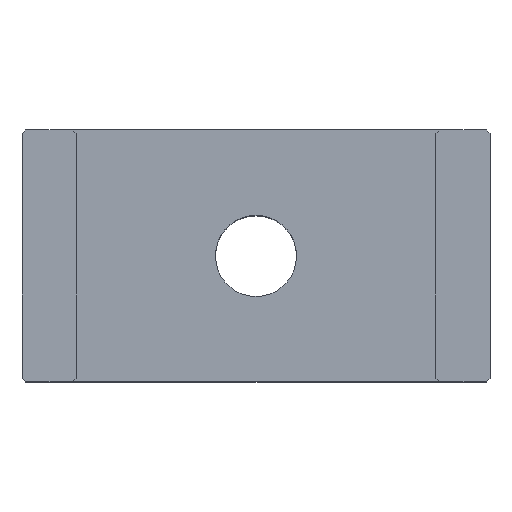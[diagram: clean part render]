
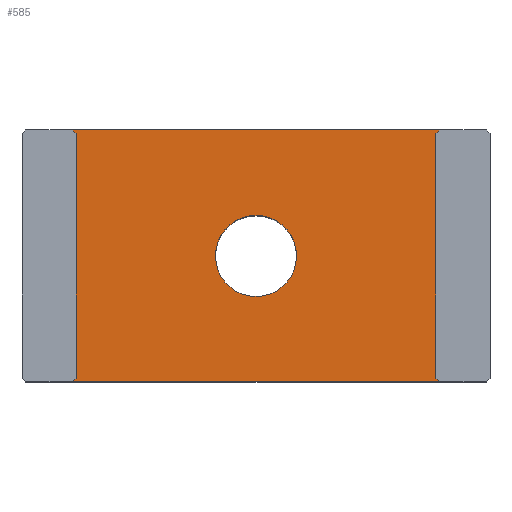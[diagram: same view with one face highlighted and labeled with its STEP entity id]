
A CAD part, top view. The second image highlights one B-rep face of the part: STEP entity #585.
In plain terms, the highlighted planar face has unit normal (0, 0, 1).
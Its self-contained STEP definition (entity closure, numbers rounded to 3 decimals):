
#6 = EDGE_LOOP ( 'NONE', ( #385, #417, #694, #769, #741, #360, #695, #500 ) ) ;
#24 = VECTOR ( 'NONE', #784, 1000. ) ;
#47 = LINE ( 'NONE', #292, #24 ) ;
#48 = VECTOR ( 'NONE', #159, 1000. ) ;
#95 = VECTOR ( 'NONE', #525, 1000. ) ;
#98 = CARTESIAN_POINT ( 'NONE',  ( 23.1, -13.9, -3. ) ) ;
#129 = VERTEX_POINT ( 'NONE', #482 ) ;
#134 = EDGE_CURVE ( 'NONE', #532, #129, #424, .T. ) ;
#141 = AXIS2_PLACEMENT_3D ( 'NONE', #343, #792, #402 ) ;
#159 = DIRECTION ( 'NONE',  ( 0.707, -0.707, 0. ) ) ;
#161 = DIRECTION ( 'NONE',  ( 0., 0., 1. ) ) ;
#168 = EDGE_CURVE ( 'NONE', #379, #689, #553, .T. ) ;
#180 = VERTEX_POINT ( 'NONE', #296 ) ;
#184 = EDGE_CURVE ( 'NONE', #129, #180, #751, .T. ) ;
#205 = EDGE_CURVE ( 'NONE', #689, #830, #766, .T. ) ;
#211 = CARTESIAN_POINT ( 'NONE',  ( 15.25, -7., -3. ) ) ;
#219 = CARTESIAN_POINT ( 'NONE',  ( 2.8, 0., -3. ) ) ;
#220 = CARTESIAN_POINT ( 'NONE',  ( 10.75, -7., -3. ) ) ;
#225 = CIRCLE ( 'NONE', #306, 2.25 ) ;
#239 = FACE_OUTER_BOUND ( 'NONE', #6, .T. ) ;
#249 = VERTEX_POINT ( 'NONE', #220 ) ;
#271 = DIRECTION ( 'NONE',  ( -1., 0., 0. ) ) ;
#281 = EDGE_CURVE ( 'NONE', #180, #305, #47, .T. ) ;
#292 = CARTESIAN_POINT ( 'NONE',  ( 13., -14., -3. ) ) ;
#296 = CARTESIAN_POINT ( 'NONE',  ( 23.2, -14., -3. ) ) ;
#305 = VERTEX_POINT ( 'NONE', #717 ) ;
#306 = AXIS2_PLACEMENT_3D ( 'NONE', #816, #161, #663 ) ;
#311 = VERTEX_POINT ( 'NONE', #211 ) ;
#333 = DIRECTION ( 'NONE',  ( 0., 0., -1. ) ) ;
#343 = CARTESIAN_POINT ( 'NONE',  ( 13., -7., -3. ) ) ;
#359 = CARTESIAN_POINT ( 'NONE',  ( 2.9, -0.1, -3. ) ) ;
#360 = ORIENTED_EDGE ( 'NONE', *, *, #134, .F. ) ;
#379 = VERTEX_POINT ( 'NONE', #548 ) ;
#385 = ORIENTED_EDGE ( 'NONE', *, *, #168, .F. ) ;
#402 = DIRECTION ( 'NONE',  ( -1., 0., 0. ) ) ;
#406 = FACE_BOUND ( 'NONE', #559, .T. ) ;
#407 = CARTESIAN_POINT ( 'NONE',  ( 23.1, -0.1, -3. ) ) ;
#417 = ORIENTED_EDGE ( 'NONE', *, *, #810, .F. ) ;
#424 = LINE ( 'NONE', #688, #565 ) ;
#438 = EDGE_CURVE ( 'NONE', #249, #311, #225, .T. ) ;
#443 = LINE ( 'NONE', #446, #576 ) ;
#446 = CARTESIAN_POINT ( 'NONE',  ( 2.9, -13.9, -3. ) ) ;
#453 = ORIENTED_EDGE ( 'NONE', *, *, #631, .F. ) ;
#457 = CARTESIAN_POINT ( 'NONE',  ( 23.322, -14., -3. ) ) ;
#472 = DIRECTION ( 'NONE',  ( 0., -1., 0. ) ) ;
#482 = CARTESIAN_POINT ( 'NONE',  ( 23., -13.8, -3. ) ) ;
#500 = ORIENTED_EDGE ( 'NONE', *, *, #205, .F. ) ;
#525 = DIRECTION ( 'NONE',  ( 0., 1., 0. ) ) ;
#532 = VERTEX_POINT ( 'NONE', #724 ) ;
#544 = ORIENTED_EDGE ( 'NONE', *, *, #438, .F. ) ;
#548 = CARTESIAN_POINT ( 'NONE',  ( 3., -0.2, -3. ) ) ;
#551 = EDGE_CURVE ( 'NONE', #830, #532, #814, .T. ) ;
#553 = LINE ( 'NONE', #359, #726 ) ;
#559 = EDGE_LOOP ( 'NONE', ( #544, #453 ) ) ;
#560 = CIRCLE ( 'NONE', #141, 2.25 ) ;
#565 = VECTOR ( 'NONE', #472, 1000. ) ;
#576 = VECTOR ( 'NONE', #790, 1000. ) ;
#585 = ADVANCED_FACE ( 'NONE', ( #406, #239 ), #651, .F. ) ;
#591 = VECTOR ( 'NONE', #683, 1000. ) ;
#594 = CARTESIAN_POINT ( 'NONE',  ( 3., -13.8, -3. ) ) ;
#605 = LINE ( 'NONE', #719, #95 ) ;
#631 = EDGE_CURVE ( 'NONE', #311, #249, #560, .T. ) ;
#642 = CARTESIAN_POINT ( 'NONE',  ( 23.2, 0., -3. ) ) ;
#651 = PLANE ( 'NONE',  #759 ) ;
#659 = CARTESIAN_POINT ( 'NONE',  ( 13., 0., -3. ) ) ;
#663 = DIRECTION ( 'NONE',  ( -1., 0., 0. ) ) ;
#683 = DIRECTION ( 'NONE',  ( 1., 0., 0. ) ) ;
#688 = CARTESIAN_POINT ( 'NONE',  ( 23., -7., -3. ) ) ;
#689 = VERTEX_POINT ( 'NONE', #219 ) ;
#694 = ORIENTED_EDGE ( 'NONE', *, *, #812, .F. ) ;
#695 = ORIENTED_EDGE ( 'NONE', *, *, #551, .F. ) ;
#699 = VECTOR ( 'NONE', #742, 1000. ) ;
#717 = CARTESIAN_POINT ( 'NONE',  ( 2.8, -14., -3. ) ) ;
#719 = CARTESIAN_POINT ( 'NONE',  ( 3., -7., -3. ) ) ;
#724 = CARTESIAN_POINT ( 'NONE',  ( 23., -0.2, -3. ) ) ;
#726 = VECTOR ( 'NONE', #743, 1000. ) ;
#741 = ORIENTED_EDGE ( 'NONE', *, *, #184, .F. ) ;
#742 = DIRECTION ( 'NONE',  ( -0.707, -0.707, 0. ) ) ;
#743 = DIRECTION ( 'NONE',  ( -0.707, 0.707, 0. ) ) ;
#751 = LINE ( 'NONE', #98, #48 ) ;
#759 = AXIS2_PLACEMENT_3D ( 'NONE', #457, #333, #271 ) ;
#766 = LINE ( 'NONE', #659, #591 ) ;
#769 = ORIENTED_EDGE ( 'NONE', *, *, #281, .F. ) ;
#784 = DIRECTION ( 'NONE',  ( -1., 0., 0. ) ) ;
#790 = DIRECTION ( 'NONE',  ( 0.707, 0.707, 0. ) ) ;
#792 = DIRECTION ( 'NONE',  ( 0., 0., 1. ) ) ;
#797 = VERTEX_POINT ( 'NONE', #594 ) ;
#810 = EDGE_CURVE ( 'NONE', #797, #379, #605, .T. ) ;
#812 = EDGE_CURVE ( 'NONE', #305, #797, #443, .T. ) ;
#814 = LINE ( 'NONE', #407, #699 ) ;
#816 = CARTESIAN_POINT ( 'NONE',  ( 13., -7., -3. ) ) ;
#830 = VERTEX_POINT ( 'NONE', #642 ) ;
